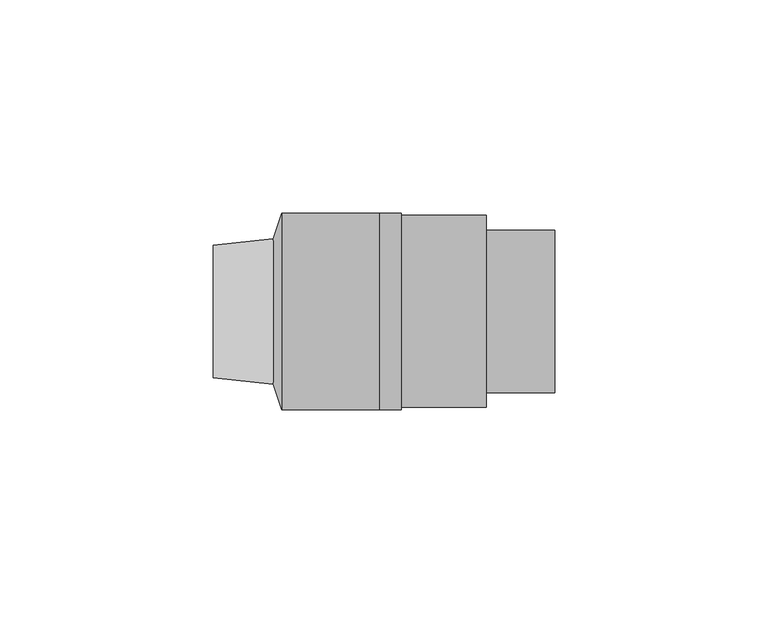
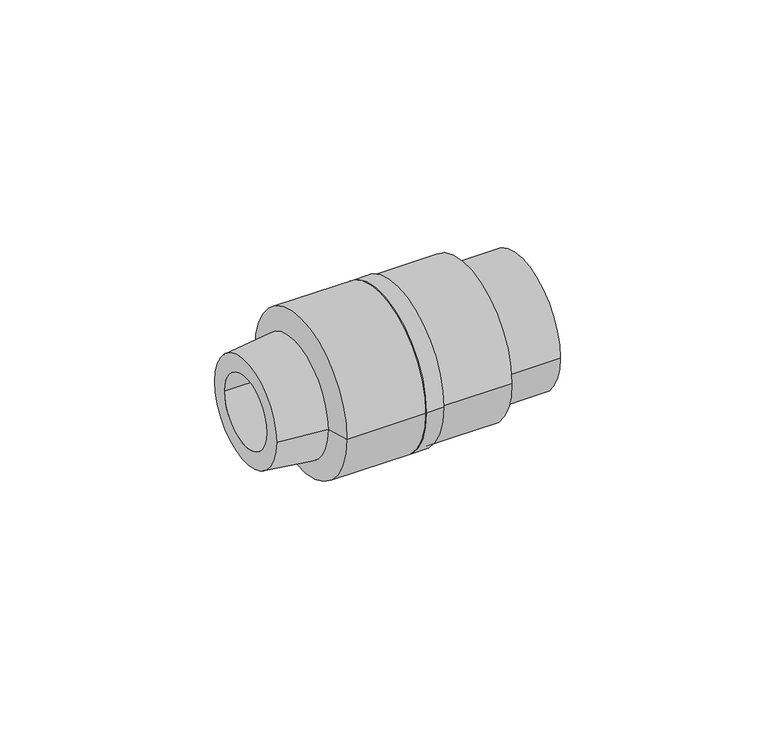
"""IFC4 building model written with IfcOpenShell, lengths in millimetres: pipe fitting geometry, Pipelife - PE - Złącze z gwintem wewnętrznym : 20 x 1/2''."""

from ifc_helpers import new_model, si_unit, point, frame, origin, origin_2d, place, context, project, spatial, polyline, circle_curve, trimmed, segment, composite_curve, outline, extrude, source, transform, mapped, element, save
from ifc_brep_helpers import plane_surface, cylinder_surface, revolved_surface, advanced_brep


def pipe_fitting_2241b8d5(model_context):
    return source(origin(), model_context, "Body", "SolidModel", [
        extrude(outline(composite_curve([segment(trimmed(circle_curve(origin_2d(), 23.0), [point((-23.0, 0.0))], [point((23.0, 0.0))], False, "CARTESIAN"), True, "CONTINUOUS"), segment(trimmed(circle_curve(origin_2d(), 23.0), [point((23.0, 0.0))], [point((-23.0, 0.0))], False, "CARTESIAN"), True, "CONTINUOUS")], self_intersect=False), holes=[composite_curve([segment(trimmed(circle_curve(origin_2d(), 10.5), [point((10.5, 0.0))], [point((-10.5, 0.0))], True, "CARTESIAN"), True, "CONTINUOUS"), segment(trimmed(circle_curve(origin_2d(), 10.5), [point((-10.5, 0.0))], [point((10.5, 0.0))], True, "CARTESIAN"), True, "CONTINUOUS")], self_intersect=False)]), frame((-19.5606033, 0.0, 0.0), z_axis=(1.0, 0.0, 0.0), x_axis=(0.0, 1.0, 0.0)), (0.0, 0.0, 1.0), 5.0),
        advanced_brep(
        [(-14.5606033, -22.5, 0.0), (-14.5606033, 22.5, 0.0), (-14.5606033, 10.5, 0.0), (-14.5606033, -10.5, 0.0), (5.4393967, -22.5, 0.0), (5.4393967, 22.5, 0.0), (5.4393967, -19.0, 0.0), (5.4393967, 19.0, 0.0), (-0.5606033, -10.5, 0.0), (-0.5606033, 10.5, 0.0), (3.4393967, -9.5, 0.0), (3.4393967, 9.5, 0.0), (21.4393967, 9.5, 0.0), (21.4393967, -9.5, 0.0), (21.4393967, -19.0, 0.0), (21.4393967, 19.0, 0.0)],
        [
            (0, 1, circle_curve(frame((-14.5606033, 0.0, 0.0), z_axis=(-1.0, 0.0, 0.0), x_axis=(0.0, 1.0, 0.0)), 22.5)),
            (1, 0, circle_curve(frame((-14.5606033, 0.0, 0.0), z_axis=(-1.0, 0.0, 0.0), x_axis=(0.0, 1.0, 0.0)), 22.5)),
            (2, 3, circle_curve(frame((-14.5606033, 0.0, 0.0), z_axis=(1.0, 0.0, 0.0), x_axis=(0.0, 1.0, 0.0)), 10.5)),
            (3, 2, circle_curve(frame((-14.5606033, 0.0, 0.0), z_axis=(1.0, 0.0, 0.0), x_axis=(0.0, 1.0, 0.0)), 10.5)),
            (4, 5, circle_curve(frame((5.4393967, 0.0, 0.0), z_axis=(1.0, 0.0, 0.0), x_axis=(0.0, 1.0, 0.0)), 22.5)),
            (5, 4, circle_curve(frame((5.4393967, 0.0, 0.0), z_axis=(1.0, 0.0, 0.0), x_axis=(0.0, 1.0, 0.0)), 22.5)),
            (6, 7, circle_curve(frame((5.4393967, 0.0, 0.0), z_axis=(-1.0, 0.0, 0.0), x_axis=(0.0, 1.0, 0.0)), 19.0)),
            (7, 6, circle_curve(frame((5.4393967, 0.0, 0.0), z_axis=(-1.0, 0.0, 0.0), x_axis=(0.0, 1.0, 0.0)), 19.0)),
            (0, 4),
            (5, 1),
            (8, 9, circle_curve(frame((-0.5606033, 0.0, 0.0), z_axis=(-1.0, 0.0, 0.0), x_axis=(0.0, 1.0, 0.0)), 10.5)),
            (9, 8, circle_curve(frame((-0.5606033, 0.0, 0.0), z_axis=(-1.0, 0.0, 0.0), x_axis=(0.0, 1.0, 0.0)), 10.5)),
            (8, 3),
            (2, 9),
            (10, 11, circle_curve(frame((3.4393967, 0.0, 0.0), z_axis=(1.0, 0.0, 0.0), x_axis=(0.0, 1.0, 0.0)), 9.5)),
            (11, 10, circle_curve(frame((3.4393967, 0.0, 0.0), z_axis=(1.0, 0.0, 0.0), x_axis=(0.0, 1.0, 0.0)), 9.5)),
            (11, 12),
            (12, 13, circle_curve(frame((21.4393967, 0.0, 0.0), z_axis=(1.0, 0.0, 0.0), x_axis=(0.0, 1.0, 0.0)), 9.5)),
            (13, 10),
            (13, 12, circle_curve(frame((21.4393967, 0.0, 0.0), z_axis=(1.0, 0.0, 0.0), x_axis=(0.0, 1.0, 0.0)), 9.5)),
            (14, 15, circle_curve(frame((21.4393967, 0.0, 0.0), z_axis=(1.0, 0.0, 0.0), x_axis=(0.0, 1.0, 0.0)), 19.0)),
            (15, 14, circle_curve(frame((21.4393967, 0.0, 0.0), z_axis=(1.0, 0.0, 0.0), x_axis=(0.0, 1.0, 0.0)), 19.0)),
            (15, 7),
            (6, 14),
        ],
        [
            plane_surface(frame((-14.5606033, 0.0, 0.0), z_axis=(-1.0, 0.0, 0.0), x_axis=(0.0, 0.0, 1.0))),
            plane_surface(frame((5.4393967, 0.0, 0.0), z_axis=(1.0, 0.0, 0.0), x_axis=(0.0, 0.0, 1.0))),
            cylinder_surface(frame((-14.5606033, 0.0, 0.0), z_axis=(-1.0, 0.0, 0.0), x_axis=(0.0, 1.0, 0.0)), 22.5),
            plane_surface(frame((-0.5606033, 0.0, 0.0), z_axis=(-1.0, 0.0, 0.0), x_axis=(0.0, 0.0, 1.0))),
            revolved_surface(polyline([(-14.560603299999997, 10.5, 0.0), (-0.5606032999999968, 10.5, 0.0)]), (-58.5606033, 0.0, 0.0), (-1.0, 0.0, 0.0)),
            plane_surface(frame((3.4393967, 0.0, 0.0), z_axis=(1.0, 0.0, 0.0), x_axis=(0.0, 0.0, 1.0))),
            revolved_surface(polyline([(3.4393967, 9.5, 0.0), (21.4393967, 9.5, 0.0)]), (3.4393967, 0.0, 0.0), (-1.0, 0.0, 0.0)),
            plane_surface(frame((21.4393967, 0.0, 0.0), z_axis=(1.0, 0.0, 0.0), x_axis=(0.0, 0.0, 1.0))),
            cylinder_surface(frame((5.4393967, 0.0, 0.0), z_axis=(-1.0, 0.0, 0.0), x_axis=(0.0, 1.0, 0.0)), 19.0),
        ],
        [
            (0, [[1, 2], [3, 4]]),
            (1, [[5, 6], [7, 8]]),
            (2, [[-1, 9, -6, 10]]),
            (2, [[-2, -10, -5, -9]]),
            (3, [[11, 12]]),
            (4, [[-11, 13, -3, 14]]),
            (4, [[-12, -14, -4, -13]]),
            (5, [[15, 16]]),
            (6, [[-16, 17, 18, 19]]),
            (6, [[-15, -19, 20, -17]]),
            (7, [[21, 22], [-18, -20]]),
            (8, [[-22, 23, -7, 24]]),
            (8, [[-21, -24, -8, -23]]),
        ],
    ),
        advanced_brep(
        [(-58.5606033, -15.5, 0.0), (-58.5606033, 15.5, 0.0), (-58.5606033, 10.5, 0.0), (-58.5606033, -10.5, 0.0), (-44.5606033, 17.0, 0.0), (-44.5606033, -17.0, 0.0), (-19.5606033, -10.5, 0.0), (-19.5606033, 10.5, 0.0), (-42.5606033, 23.0, 0.0), (-42.5606033, -23.0, 0.0), (-19.5606033, -23.0, 0.0), (-19.5606033, 23.0, 0.0)],
        [
            (0, 1, circle_curve(frame((-58.5606033, 0.0, 0.0), z_axis=(-1.0, 0.0, 0.0), x_axis=(0.0, 1.0, 0.0)), 15.5)),
            (1, 0, circle_curve(frame((-58.5606033, 0.0, 0.0), z_axis=(-1.0, 0.0, 0.0), x_axis=(0.0, -1.0, 0.0)), 15.5)),
            (2, 3, circle_curve(frame((-58.5606033, 0.0, 0.0), z_axis=(1.0, 0.0, 0.0), x_axis=(0.0, 1.0, 0.0)), 10.5)),
            (3, 2, circle_curve(frame((-58.5606033, 0.0, 0.0), z_axis=(1.0, 0.0, 0.0), x_axis=(0.0, 1.0, 0.0)), 10.5)),
            (1, 4),
            (4, 5, circle_curve(frame((-44.5606033, 0.0, 0.0), z_axis=(-1.0, 0.0, 0.0), x_axis=(0.0, -1.0, 0.0)), 17.0)),
            (5, 0),
            (5, 4, circle_curve(frame((-44.5606033, 0.0, 0.0), z_axis=(-1.0, 0.0, 0.0), x_axis=(0.0, 1.0, 0.0)), 17.0)),
            (6, 3),
            (2, 7),
            (7, 6, circle_curve(frame((-19.5606033, 0.0, 0.0), z_axis=(1.0, 0.0, 0.0), x_axis=(0.0, 1.0, 0.0)), 10.5)),
            (6, 7, circle_curve(frame((-19.5606033, 0.0, 0.0), z_axis=(1.0, 0.0, 0.0), x_axis=(0.0, 1.0, 0.0)), 10.5)),
            (4, 8),
            (8, 9, circle_curve(frame((-42.5606033, 0.0, 0.0), z_axis=(-1.0, 0.0, 0.0), x_axis=(0.0, -1.0, 0.0)), 23.0)),
            (9, 5),
            (9, 8, circle_curve(frame((-42.5606033, 0.0, 0.0), z_axis=(-1.0, 0.0, 0.0), x_axis=(0.0, 1.0, 0.0)), 23.0)),
            (10, 11, circle_curve(frame((-19.5606033, 0.0, 0.0), z_axis=(1.0, 0.0, 0.0), x_axis=(0.0, 1.0, 0.0)), 23.0)),
            (11, 10, circle_curve(frame((-19.5606033, 0.0, 0.0), z_axis=(1.0, 0.0, 0.0), x_axis=(0.0, 1.0, 0.0)), 23.0)),
            (11, 8),
            (9, 10),
        ],
        [
            plane_surface(frame((-58.5606033, 0.0, 0.0), z_axis=(-1.0, 0.0, 0.0), x_axis=(0.0, 0.0, -1.0))),
            revolved_surface(polyline([(-58.5606033, 15.500000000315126, 0.0), (-44.5606033, 17.0, 0.0)]), (-203.22727, 0.0, 0.0), (1.0, 0.0, 0.0)),
            revolved_surface(polyline([(-58.5606033, -15.500000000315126, 0.0), (-44.5606033, -17.0, 0.0)]), (-203.22727, 0.0, 0.0), (1.0, 0.0, 0.0)),
            revolved_surface(polyline([(-58.5606033, 10.5, 0.0), (-19.560603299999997, 10.5, 0.0)]), (-58.5606033, 0.0, 0.0), (-1.0, 0.0, 0.0)),
            revolved_surface(polyline([(-44.5606033, 17.00000002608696, 0.0), (-42.5606033, 23.0, 0.0)]), (-50.22727, 0.0, 0.0), (1.0, 0.0, 0.0)),
            plane_surface(frame((-19.5606033, 0.0, 0.0), z_axis=(1.0, 0.0, 0.0), x_axis=(0.0, 0.0, 1.0))),
            cylinder_surface(frame((-42.5606033, 0.0, 0.0), z_axis=(-1.0, 0.0, 0.0), x_axis=(0.0, 1.0, 0.0)), 23.0),
        ],
        [
            (0, [[1, 2], [3, 4]]),
            (1, [[-2, 5, 6, 7]]),
            (2, [[-1, -7, 8, -5]]),
            (3, [[9, -3, 10, 11]]),
            (3, [[-9, 12, -10, -4]]),
            (4, [[13, 14, 15, -6]]),
            (4, [[-13, -8, -15, 16]]),
            (5, [[17, 18], [-11, -12]]),
            (6, [[-18, 19, -16, 20]]),
            (6, [[-17, -20, -14, -19]]),
        ],
    ),
    ])


if __name__ == "__main__":
    model = new_model("IFC4")
    model_context = context("Model", 3, world=origin())
    ifc_project = project(units=[si_unit("LENGTHUNIT", "METRE", prefix="MILLI")], contexts=[model_context])
    site = spatial("IfcSite", under=ifc_project)
    building = spatial("IfcBuilding", under=site)
    placement = place(None, origin())
    pipe_fitting_shape = pipe_fitting_2241b8d5(model_context)
    element("IfcPipeFitting", 1, ObjectType="Pipelife - PE - Złącze z gwintem wewnętrznym : 20 x 1/2''", at=placement, inside=building, context=model_context, shape_type="MappedRepresentation", body=[
        mapped(pipe_fitting_shape, transform((0.0, 0.0, 0.0), x_axis=(1.0, 0.0, 0.0), y_axis=(0.0, 1.0, 0.0), z_axis=(0.0, 0.0, 1.0))),
    ])
    save(model, "model.ifc")
